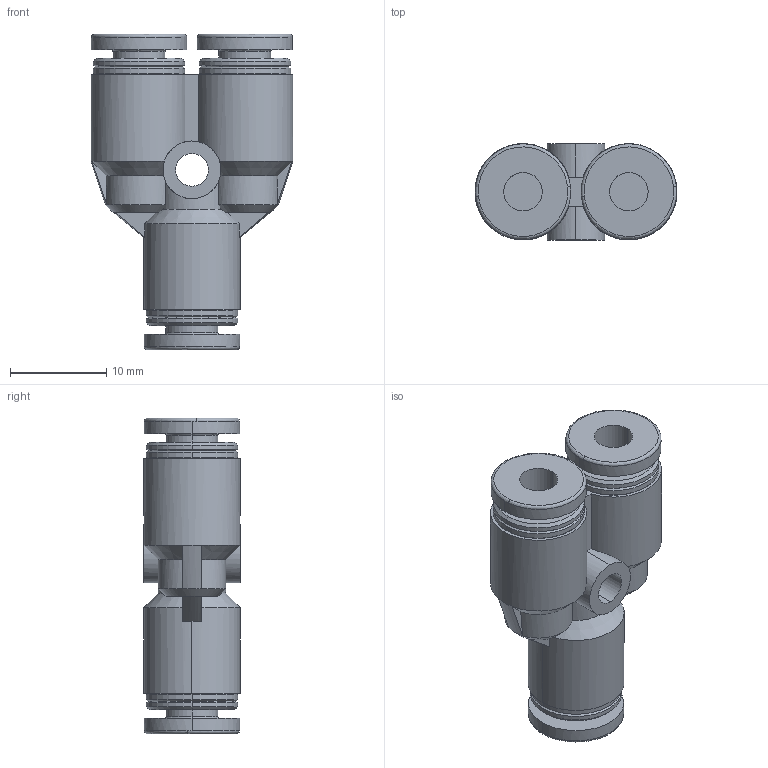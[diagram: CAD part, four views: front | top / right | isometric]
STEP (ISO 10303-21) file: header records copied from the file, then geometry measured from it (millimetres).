
FILE_DESCRIPTION (( 'STEP AP214' ), '1' );
FILE_NAME ('APY4.STEP', '2019-11-18T02:01:31', ( '微软用户' ), ( '微软中国' ), 'SwSTEP 2.0', 'SolidWorks 2016', '' );
FILE_SCHEMA (( 'AUTOMOTIVE_DESIGN' ));
Length unit declared in the file: millimetre
Products named in the file (1): APY4
Bounding box: 20.99 x 10 x 32.8 mm (x, y, z)
Volume: 3084.6 mm3; surface area: 2827 mm2
Topology: 1 solids, 1 shells, 132 faces, 312 edges, 194 vertices
Faces by surface type: cylinder 47, cone 39, plane 26, bspline 20
Entity records: 4765 total; most frequent: CARTESIAN_POINT 1751, DIRECTION 632, ORIENTED_EDGE 624, EDGE_CURVE 312, AXIS2_PLACEMENT_3D 268, VERTEX_POINT 194, CIRCLE 155, EDGE_LOOP 146
